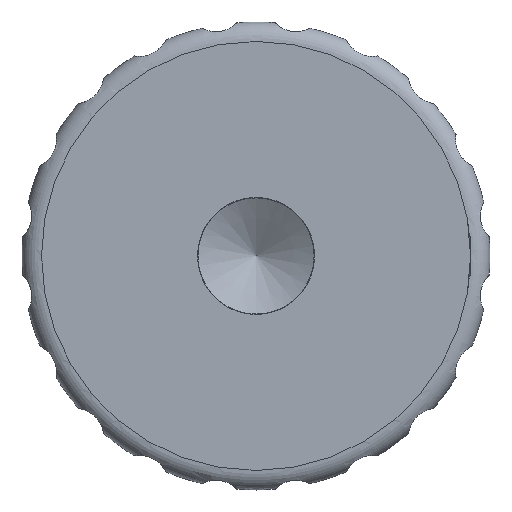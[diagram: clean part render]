
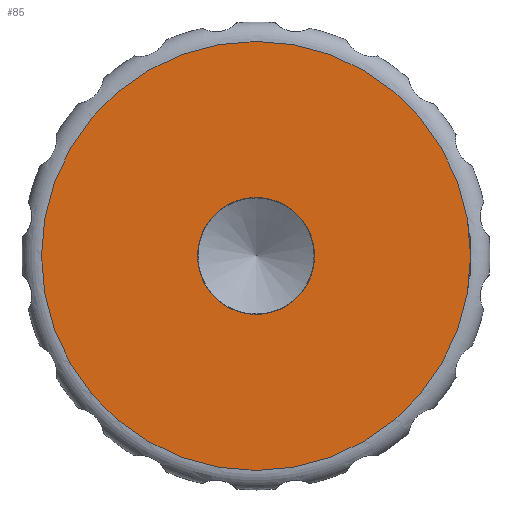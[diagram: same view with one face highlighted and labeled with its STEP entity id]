
A CAD part, left-side view. The second image highlights one B-rep face of the part: STEP entity #85.
In plain terms, the highlighted planar face has unit normal (-1, 0, 0).
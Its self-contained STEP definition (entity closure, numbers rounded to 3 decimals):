
#85 = ADVANCED_FACE( '', ( #167, #168 ), #169, .F. );
#167 = FACE_OUTER_BOUND( '', #320, .T. );
#168 = FACE_BOUND( '', #321, .T. );
#169 = PLANE( '', #322 );
#320 = EDGE_LOOP( '', ( #555 ) );
#321 = EDGE_LOOP( '', ( #556 ) );
#322 = AXIS2_PLACEMENT_3D( '', #557, #558, #559 );
#555 = ORIENTED_EDGE( '', *, *, #1067, .F. );
#556 = ORIENTED_EDGE( '', *, *, #1068, .T. );
#557 = CARTESIAN_POINT( '', ( 0., 3., 0. ) );
#558 = DIRECTION( '', ( 1., 0., 0. ) );
#559 = DIRECTION( '', ( 0., 0., -1. ) );
#1067 = EDGE_CURVE( '', #1298, #1298, #1299, .T. );
#1068 = EDGE_CURVE( '', #1300, #1300, #1301, .T. );
#1298 = VERTEX_POINT( '', #2090 );
#1299 = CIRCLE( '', #2091, 11. );
#1300 = VERTEX_POINT( '', #2092 );
#1301 = CIRCLE( '', #2093, 3. );
#2090 = CARTESIAN_POINT( '', ( 0., 0., -11. ) );
#2091 = AXIS2_PLACEMENT_3D( '', #2682, #2683, #2684 );
#2092 = CARTESIAN_POINT( '', ( 0., 0., -3. ) );
#2093 = AXIS2_PLACEMENT_3D( '', #2685, #2686, #2687 );
#2682 = CARTESIAN_POINT( '', ( 0., 0., 0. ) );
#2683 = DIRECTION( '', ( 1., 0., 0. ) );
#2684 = DIRECTION( '', ( 0., 0., -1. ) );
#2685 = CARTESIAN_POINT( '', ( 0., 0., 0. ) );
#2686 = DIRECTION( '', ( 1., 0., 0. ) );
#2687 = DIRECTION( '', ( 0., 0., -1. ) );
